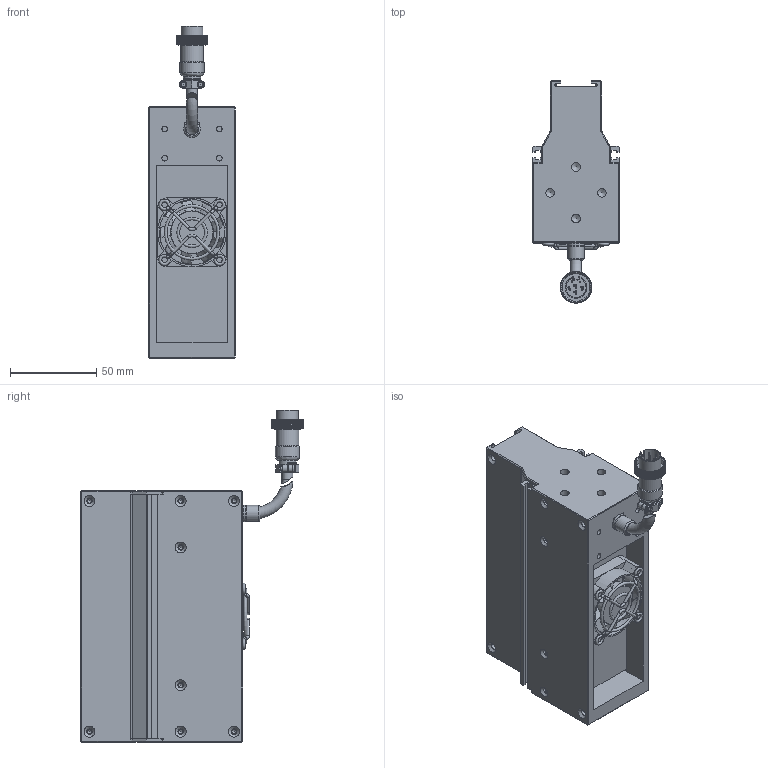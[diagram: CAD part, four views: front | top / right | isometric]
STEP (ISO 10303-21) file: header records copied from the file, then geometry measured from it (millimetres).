
FILE_DESCRIPTION (( 'STEP AP203' ), '1' );
FILE_NAME ('OPT-LSS146-W-V3.1尨砩芞.STEP', '2025-01-20T07:40:33', ( 'USER' ), ( '' ), 'SwSTEP 2.0', 'SolidWorks 2016', '' );
FILE_SCHEMA (( 'CONFIG_CONTROL_DESIGN' ));
Products named in the file (2): OPT-LSS146-W-V3.1尨砩芞
Bounding box: 50 x 129.15 x 192.83 mm (x, y, z)
Volume: 496284.2 mm3; surface area: 90167.1 mm2
Topology: 9 solids, 17 shells, 3492 faces, 7698 edges, 4287 vertices
Faces by surface type: bspline 2086, cylinder 688, plane 606, torus 63, cone 49
Full cylindrical faces by diameter (mm): 0.95 x6, 1.1 x2, 1.4 x2, 1.6 x4, 2 x5, 2.5 x16, 3.2 x8, 3.4 x16, 3.5 x4, 5 x8, 6.2 x4, 6.4 x3, 7.5 x1, 8.6 x1, 9.3 x1, 9.8 x1, 10 x1, 13.2 x1, 14 x1, 16.1 x1, 24.8 x1, 38 x1
Entity records: 118288 total; most frequent: CARTESIAN_POINT 60924, ORIENTED_EDGE 14956, EDGE_CURVE 7478, B_SPLINE_CURVE_WITH_KNOTS 5447, DIRECTION 5300, VERTEX_POINT 4234, EDGE_LOOP 3734, FACE_OUTER_BOUND 3606
